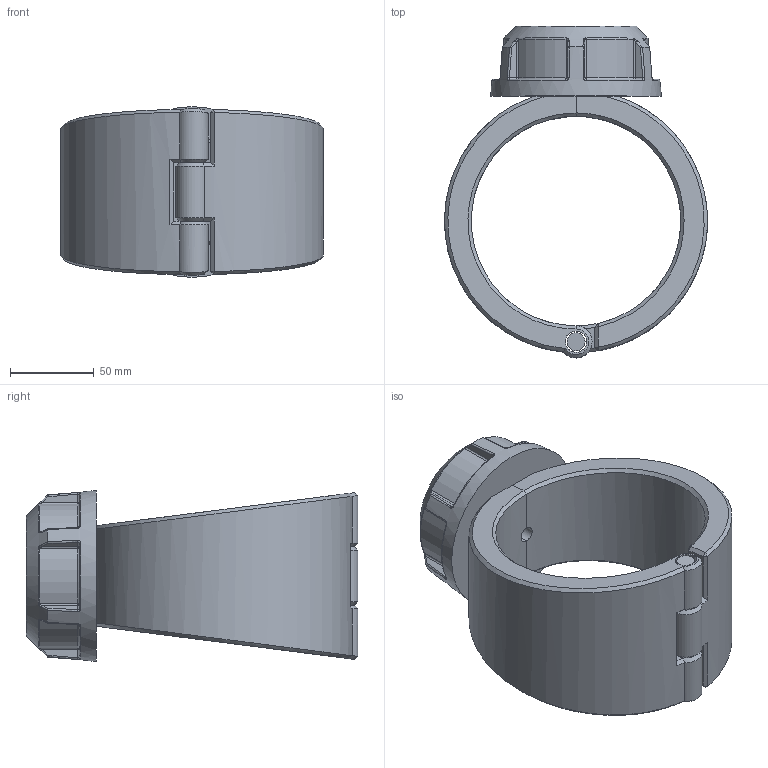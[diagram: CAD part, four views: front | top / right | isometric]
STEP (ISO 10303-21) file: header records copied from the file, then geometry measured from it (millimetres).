
FILE_DESCRIPTION(/* description */ ('Plassadle Threaded 125x1/2'''''),/* implementation_level */ '2;1');
FILE_NAME(/* name */ 'C:\Users\comp2\Dropbox\99-16-3568-Processing\Mechanical Fittings\16300\stp\163000125005.stp',/* time_stamp */ '2022-02-03T11:50:31+00:00',/* author */ ('comp2'),/* organization */ (''),/* preprocessor_version */ 'ST-DEVELOPER v17.2',/* originating_system */ 'Autodesk Inventor 2019',/* authorisation */ '');
FILE_SCHEMA (('AUTOMOTIVE_DESIGN { 1 0 10303 214 3 1 1 }'));
Length unit declared in the file: millimetre
Products named in the file (1): 163000125005
Bounding box: 156.96 x 198 x 102 mm (x, y, z)
Volume: 801361.4 mm3; surface area: 122783 mm2
Topology: 4 solids, 4 shells, 203 faces, 486 edges, 293 vertices
Faces by surface type: bspline 58, plane 53, cylinder 47, torus 18, cone 15, sphere 12
Full cylindrical faces by diameter (mm): 9.316 x1, 10.74 x1, 12.74 x3, 15.836 x1, 18.631 x1, 27.947 x1
Entity records: 8235 total; most frequent: CARTESIAN_POINT 3888, ORIENTED_EDGE 972, DIRECTION 781, EDGE_CURVE 486, AXIS2_PLACEMENT_3D 330, VERTEX_POINT 293, EDGE_LOOP 213, FACE_OUTER_BOUND 203
